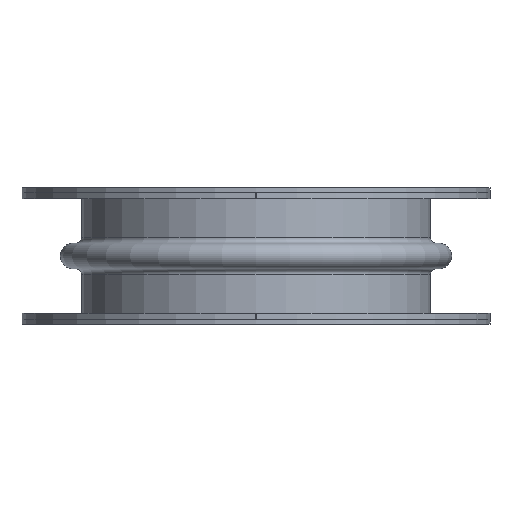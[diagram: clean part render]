
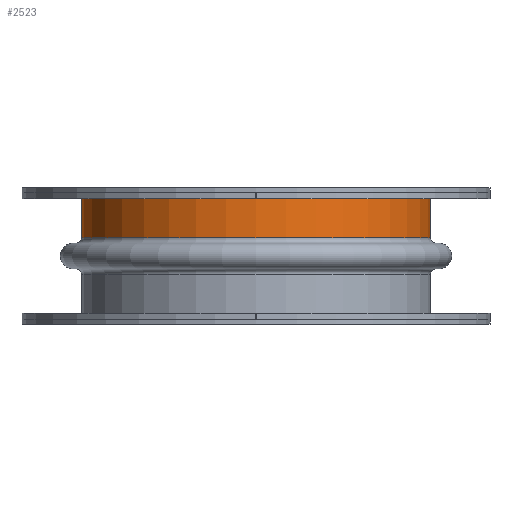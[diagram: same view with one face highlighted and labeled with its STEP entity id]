
A CAD part, front view. The second image highlights one B-rep face of the part: STEP entity #2523.
In plain terms, the highlighted cylindrical face has radius 260.35 mm (diameter 520.7 mm), a full revolution.
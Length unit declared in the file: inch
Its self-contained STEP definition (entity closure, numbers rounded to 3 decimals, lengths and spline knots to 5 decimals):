
#216=FACE_OUTER_BOUND('',#342,.T.);
#342=EDGE_LOOP('',(#1636,#1637,#1638,#1639,#1640));
#636=LINE('',#3811,#756);
#756=VECTOR('',#3017,10.25);
#876=CIRCLE('',#2676,10.25);
#877=CIRCLE('',#2677,10.25);
#878=CIRCLE('',#2678,10.25);
#1086=VERTEX_POINT('',#3807);
#1087=VERTEX_POINT('',#3808);
#1088=VERTEX_POINT('',#3810);
#1306=EDGE_CURVE('',#1086,#1087,#876,.T.);
#1307=EDGE_CURVE('',#1086,#1088,#636,.T.);
#1308=EDGE_CURVE('',#1088,#1088,#877,.T.);
#1309=EDGE_CURVE('',#1087,#1086,#878,.T.);
#1636=ORIENTED_EDGE('',*,*,#1306,.F.);
#1637=ORIENTED_EDGE('',*,*,#1307,.T.);
#1638=ORIENTED_EDGE('',*,*,#1308,.F.);
#1639=ORIENTED_EDGE('',*,*,#1307,.F.);
#1640=ORIENTED_EDGE('',*,*,#1309,.F.);
#2296=CYLINDRICAL_SURFACE('',#2675,10.25);
#2523=ADVANCED_FACE('',(#216),#2296,.T.);
#2675=AXIS2_PLACEMENT_3D('',#3806,#3013,#3014);
#2676=AXIS2_PLACEMENT_3D('',#3809,#3015,#3016);
#2677=AXIS2_PLACEMENT_3D('',#3812,#3018,#3019);
#2678=AXIS2_PLACEMENT_3D('',#3813,#3020,#3021);
#3013=DIRECTION('center_axis',(0.,0.,
-1.));
#3014=DIRECTION('ref_axis',(0.,-1.,0.));
#3015=DIRECTION('center_axis',(0.,0.,
-1.));
#3016=DIRECTION('ref_axis',(-1.,0.,0.));
#3017=DIRECTION('',(0.,0.,1.));
#3018=DIRECTION('center_axis',(0.,0.,
1.));
#3019=DIRECTION('ref_axis',(0.,-1.,0.));
#3020=DIRECTION('center_axis',(0.,0.,
-1.));
#3021=DIRECTION('ref_axis',(-1.,0.,0.));
#3806=CARTESIAN_POINT('Origin',(0.,0.,
2.41667));
#3807=CARTESIAN_POINT('',(0.,10.25,1.08333));
#3808=CARTESIAN_POINT('',(-10.25,0.,1.08333));
#3809=CARTESIAN_POINT('Origin',(0.,0.,
1.08333));
#3810=CARTESIAN_POINT('',(0.,10.25,3.75));
#3811=CARTESIAN_POINT('',(0.,10.25,2.41667));
#3812=CARTESIAN_POINT('Origin',(0.,0.,
3.75));
#3813=CARTESIAN_POINT('Origin',(0.,0.,
1.08333));
